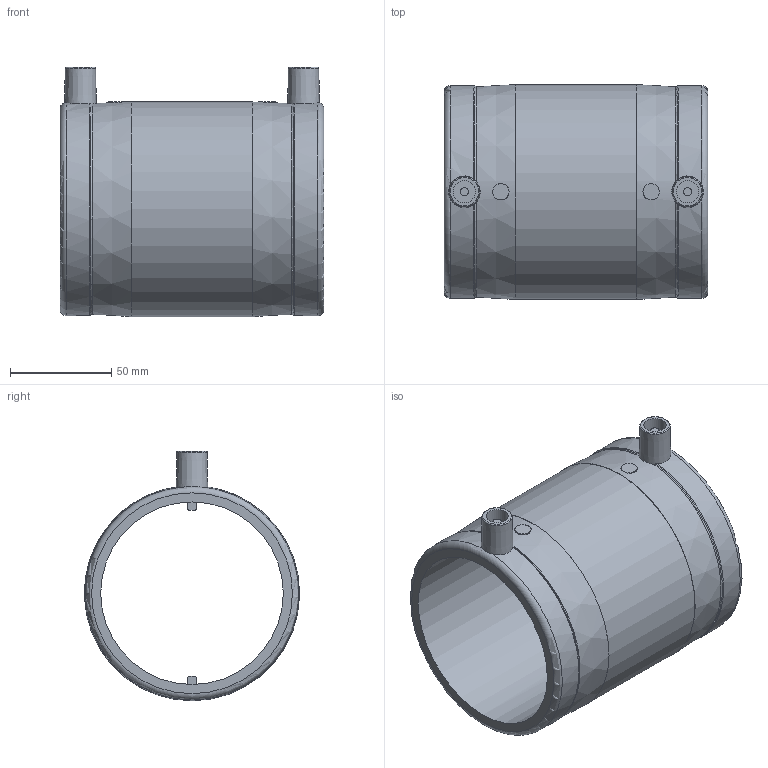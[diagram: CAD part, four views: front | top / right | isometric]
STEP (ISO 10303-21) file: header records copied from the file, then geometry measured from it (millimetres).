
FILE_DESCRIPTION(/* description */ ('Unknown'),/* implementation_level */ '2;1');
FILE_NAME(/* name */ 'MP090B',/* time_stamp */ '2021-05-06T17:23:48+02:00',/* author */ ('Unknown'),/* organization */ ('Unknown'),/* preprocessor_version */ 'ST-DEVELOPER v16.7',/* originating_system */ 'Solid Edge',/* authorisation */ 'Unknown');
FILE_SCHEMA (('AUTOMOTIVE_DESIGN {1 0 10303 214 3 1 1}'));
Length unit declared in the file: millimetre
Products named in the file (1): MP090B
Bounding box: 130 x 106 x 123 mm (x, y, z)
Volume: 311805 mm3; surface area: 86582.6 mm2
Topology: 1 solids, 1 shells, 48 faces, 114 edges, 75 vertices
Faces by surface type: plane 20, cylinder 14, torus 10, cone 4
Full cylindrical faces by diameter (mm): 4 x2, 8 x2, 11 x2, 90 x1, 106 x1
Entity records: 1286 total; most frequent: CARTESIAN_POINT 283, DIRECTION 206, ORIENTED_EDGE 168, AXIS2_PLACEMENT_3D 91, EDGE_CURVE 84, EDGE_LOOP 76, FACE_BOUND 76, VERTEX_POINT 64
